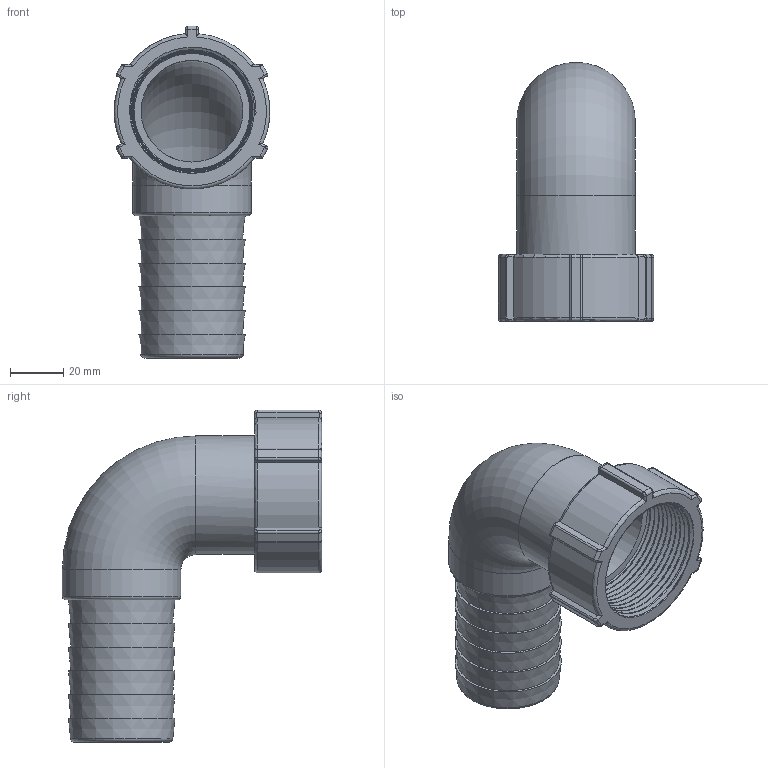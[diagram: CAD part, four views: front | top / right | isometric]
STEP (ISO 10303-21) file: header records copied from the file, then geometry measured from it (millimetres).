
FILE_DESCRIPTION(/* description */ ('Alibre Inc.'),/* implementation_level */ '2;1');
FILE_NAME(/* name */ 'export0',/* time_stamp */ '2016-11-29T15:21:15-05:00',/* author */ (''),/* organization */ (''),/* preprocessor_version */ 'ST-DEVELOPER v14',/* originating_system */ 'Alibre',/* authorisation */ '');
FILE_SCHEMA (('CONFIG_CONTROL_DESIGN'));
Length unit declared in the file: centimetre
Products named in the file (1): ID_1
Bounding box: 58.32 x 97.16 x 124.44 mm (x, y, z)
Volume: 80901 mm3; surface area: 46295.5 mm2
Topology: 1 solids, 1 shells, 153 faces, 379 edges, 237 vertices
Faces by surface type: cylinder 49, cone 36, plane 30, torus 27, bspline 11
Full cylindrical faces by diameter (mm): 38.1 x2, 44.45 x2
Entity records: 33218 total; most frequent: CARTESIAN_POINT 29909, ORIENTED_EDGE 708, DIRECTION 569, EDGE_CURVE 354, AXIS2_PLACEMENT_3D 250, VERTEX_POINT 229, EDGE_LOOP 181, FACE_BOUND 181
